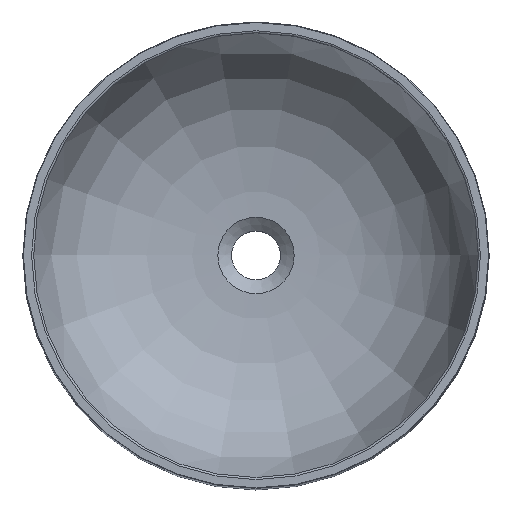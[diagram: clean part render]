
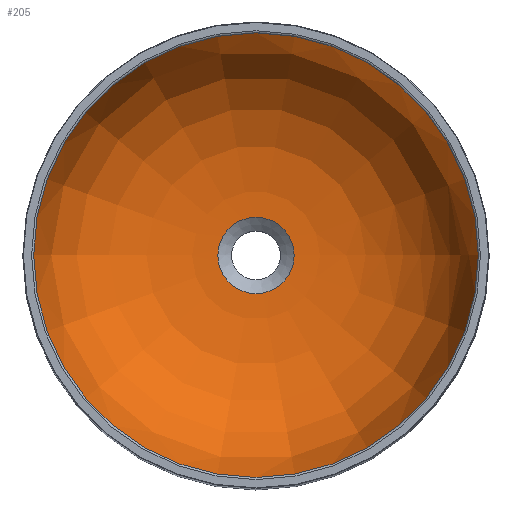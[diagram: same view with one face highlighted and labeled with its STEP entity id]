
A CAD part, top view. The second image highlights one B-rep face of the part: STEP entity #205.
In plain terms, the highlighted face is a revolution surface.
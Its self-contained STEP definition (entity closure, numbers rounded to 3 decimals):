
#56=SURFACE_OF_REVOLUTION('',#178,#57);
#57=AXIS1_PLACEMENT('',#1715,#1030);
#178=B_SPLINE_CURVE_WITH_KNOTS('',5,(#1709,#1710,#1711,#1712,#1713,#1714),
 .UNSPECIFIED.,.F.,.F.,(6,6),(0.,1.),.UNSPECIFIED.);
#205=ADVANCED_FACE('',(#280,#281),#56,.T.);
#280=FACE_BOUND('',#336,.T.);
#281=FACE_BOUND('',#337,.T.);
#336=EDGE_LOOP('',(#462));
#337=EDGE_LOOP('',(#463));
#462=ORIENTED_EDGE('',*,*,#723,.T.);
#463=ORIENTED_EDGE('',*,*,#724,.T.);
#652=VERTEX_POINT('',#1706);
#653=VERTEX_POINT('',#1708);
#723=EDGE_CURVE('',#652,#652,#788,.T.);
#724=EDGE_CURVE('',#653,#653,#789,.T.);
#788=CIRCLE('',#867,209.709);
#789=CIRCLE('',#868,36.);
#867=AXIS2_PLACEMENT_3D('',#1705,#1026,#1027);
#868=AXIS2_PLACEMENT_3D('',#1707,#1028,#1029);
#1026=DIRECTION('',(0.,0.,1.));
#1027=DIRECTION('',(1.,0.,0.));
#1028=DIRECTION('',(0.,0.,-1.));
#1029=DIRECTION('',(-1.,0.,0.));
#1030=DIRECTION('',(0.,0.,1.));
#1705=CARTESIAN_POINT('',(0.,0.,128.348));
#1706=CARTESIAN_POINT('',(209.709,0.,128.348));
#1707=CARTESIAN_POINT('',(0.,0.,0.));
#1708=CARTESIAN_POINT('',(-36.,0.,0.));
#1709=CARTESIAN_POINT('',(210.,0.,130.));
#1710=CARTESIAN_POINT('',(201.939,0.,84.285));
#1711=CARTESIAN_POINT('',(193.879,0.,38.571));
#1712=CARTESIAN_POINT('',(131.802,0.,1.672));
#1713=CARTESIAN_POINT('',(83.901,0.,0.836));
#1714=CARTESIAN_POINT('',(36.,0.,0.));
#1715=CARTESIAN_POINT('',(0.,0.,0.));
